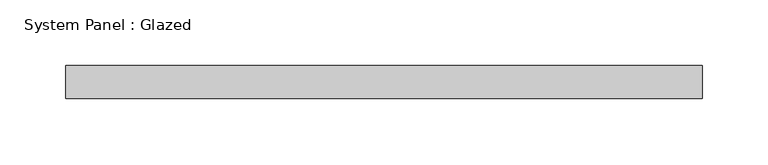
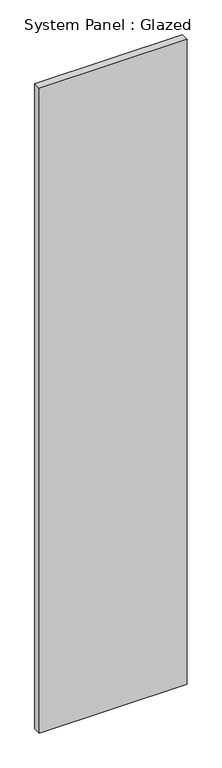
"""IFC4 building model written with IfcOpenShell, lengths in millimetres: plate geometry, System Panel : Glazed."""

from ifc_helpers import new_model, si_unit, origin, origin_with_axes, place, context, project, spatial, polyline, outline, extrude, source, transform, mapped, element, save


def system_panel_glazed_5d80e23d(model_context):
    return source(origin(), model_context, "Body", "SweptSolid", [
        extrude(outline(polyline([(241.6666667, 24.5), (-241.6666667, 24.5), (-241.6666667, 49.5), (241.6666667, 49.5), (241.6666667, 24.5)])), origin_with_axes(), (0.0, 0.0, 1.0), 2225.0),
    ])


if __name__ == "__main__":
    model = new_model("IFC4")
    model_context = context("Model", 3, world=origin())
    ifc_project = project(units=[si_unit("LENGTHUNIT", "METRE", prefix="MILLI")], contexts=[model_context])
    site = spatial("IfcSite", under=ifc_project)
    building = spatial("IfcBuilding", under=site)
    placement = place(None, origin())
    system_panel_glazed_shape = system_panel_glazed_5d80e23d(model_context)
    element("IfcPlate", 1, ObjectType="System Panel : Glazed", at=placement, inside=building, context=model_context, shape_type="MappedRepresentation", body=[
        mapped(system_panel_glazed_shape, transform((0.0, 0.0, 0.0), x_axis=(1.0, 0.0, 0.0), y_axis=(0.0, 1.0, 0.0), z_axis=(0.0, 0.0, 1.0))),
    ])
    save(model, "model.ifc")
